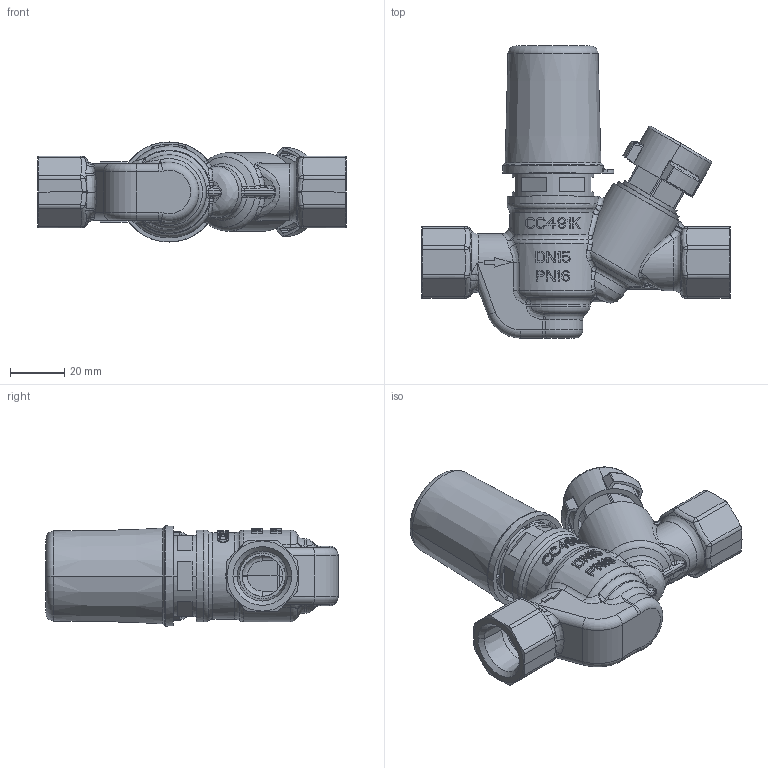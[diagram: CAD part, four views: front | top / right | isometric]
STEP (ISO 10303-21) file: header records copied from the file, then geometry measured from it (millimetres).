
FILE_DESCRIPTION((''),'2;1');
FILE_NAME('D2890_DN15_ASM','2013-05-14T',('RChallis'),(''),'PRO/ENGINEER BY PARAMETRIC TECHNOLOGY CORPORATION, 2007460','PRO/ENGINEER BY PARAMETRIC TECHNOLOGY CORPORATION, 2007460','');
FILE_SCHEMA(('CONFIG_CONTROL_DESIGN'));
Length unit declared in the file: millimetre
Products named in the file (3): D2890_DN15_NO-CAP_SW; 146110_TU_PROTECTIVE_CAP_CRANE; D2890_DN15_ASM
Assembly tree (2 placements, depth 2):
  D2890_DN15_ASM
    D2890_DN15_NO-CAP_SW
    146110_TU_PROTECTIVE_CAP_CRANE
Bounding box: 114 x 108 x 37 mm (x, y, z)
Volume: 104839.5 mm3; surface area: 53801.5 mm2
Topology: 19 solids, 19 shells, 3675 faces, 10303 edges, 6731 vertices
Faces by surface type: plane 3001, cylinder 256, bspline 208, cone 88, torus 80, sphere 42
Entity records: 129751 total; most frequent: CARTESIAN_POINT 39048, ORIENTED_EDGE 20602, DIRECTION 16469, EDGE_CURVE 10301, VERTEX_POINT 6731, VECTOR 6481, LINE 6481, AXIS2_PLACEMENT_3D 4994
